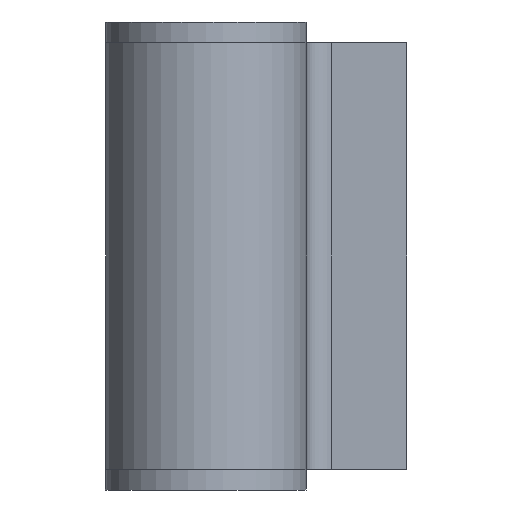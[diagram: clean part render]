
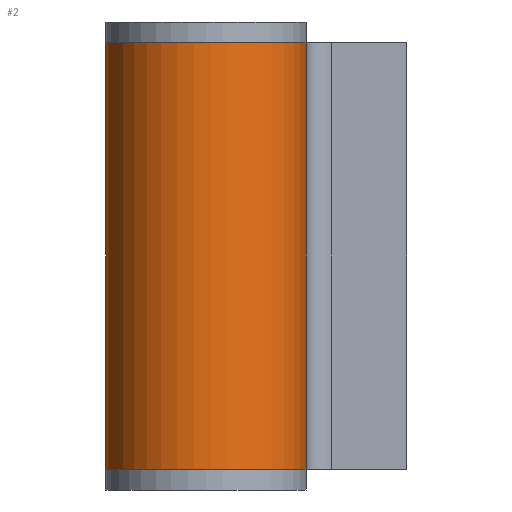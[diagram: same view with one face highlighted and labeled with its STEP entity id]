
A CAD part, left-side view. The second image highlights one B-rep face of the part: STEP entity #2.
In plain terms, the highlighted cylindrical face has radius 8 mm (diameter 16 mm), a partial arc.
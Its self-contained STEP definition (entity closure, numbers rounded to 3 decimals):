
#2 = ADVANCED_FACE ( 'NONE', ( #313 ), #261, .T. ) ;
#36 = DIRECTION ( 'NONE',  ( 0., 0., 1. ) ) ;
#67 = EDGE_CURVE ( 'NONE', #476, #593, #554, .T. ) ;
#68 = ORIENTED_EDGE ( 'NONE', *, *, #199, .F. ) ;
#97 = EDGE_LOOP ( 'NONE', ( #539, #156, #68, #358 ) ) ;
#117 = EDGE_CURVE ( 'NONE', #593, #582, #591, .T. ) ;
#151 = CARTESIAN_POINT ( 'NONE',  ( 0., -8., -17. ) ) ;
#152 = DIRECTION ( 'NONE',  ( 0., 0., -1. ) ) ;
#156 = ORIENTED_EDGE ( 'NONE', *, *, #341, .F. ) ;
#172 = DIRECTION ( 'NONE',  ( 1., 0., 0. ) ) ;
#199 = EDGE_CURVE ( 'NONE', #476, #379, #653, .T. ) ;
#232 = LINE ( 'NONE', #605, #391 ) ;
#237 = CARTESIAN_POINT ( 'NONE',  ( 5.465, 5.842, 17. ) ) ;
#261 = CYLINDRICAL_SURFACE ( 'NONE', #410, 8. ) ;
#276 = CARTESIAN_POINT ( 'NONE',  ( 0., 0., 17. ) ) ;
#313 = FACE_OUTER_BOUND ( 'NONE', #97, .T. ) ;
#332 = DIRECTION ( 'NONE',  ( 1., 0., 0. ) ) ;
#341 = EDGE_CURVE ( 'NONE', #379, #582, #232, .T. ) ;
#358 = ORIENTED_EDGE ( 'NONE', *, *, #67, .T. ) ;
#376 = VECTOR ( 'NONE', #455, 1000. ) ;
#379 = VERTEX_POINT ( 'NONE', #390 ) ;
#390 = CARTESIAN_POINT ( 'NONE',  ( 0., -8., 17. ) ) ;
#391 = VECTOR ( 'NONE', #655, 1000. ) ;
#410 = AXIS2_PLACEMENT_3D ( 'NONE', #632, #152, #602 ) ;
#447 = DIRECTION ( 'NONE',  ( 0., 0., 1. ) ) ;
#451 = CARTESIAN_POINT ( 'NONE',  ( 5.465, 5.842, 17. ) ) ;
#455 = DIRECTION ( 'NONE',  ( 0., 0., -1. ) ) ;
#476 = VERTEX_POINT ( 'NONE', #237 ) ;
#504 = AXIS2_PLACEMENT_3D ( 'NONE', #276, #36, #332 ) ;
#537 = CARTESIAN_POINT ( 'NONE',  ( 5.465, 5.842, -17. ) ) ;
#539 = ORIENTED_EDGE ( 'NONE', *, *, #117, .T. ) ;
#554 = LINE ( 'NONE', #451, #376 ) ;
#582 = VERTEX_POINT ( 'NONE', #151 ) ;
#591 = CIRCLE ( 'NONE', #622, 8. ) ;
#593 = VERTEX_POINT ( 'NONE', #537 ) ;
#602 = DIRECTION ( 'NONE',  ( -1., 0., 0. ) ) ;
#605 = CARTESIAN_POINT ( 'NONE',  ( 0., -8., 17. ) ) ;
#622 = AXIS2_PLACEMENT_3D ( 'NONE', #703, #447, #172 ) ;
#632 = CARTESIAN_POINT ( 'NONE',  ( 0., 0., 17. ) ) ;
#653 = CIRCLE ( 'NONE', #504, 8. ) ;
#655 = DIRECTION ( 'NONE',  ( 0., 0., -1. ) ) ;
#703 = CARTESIAN_POINT ( 'NONE',  ( 0., 0., -17. ) ) ;
